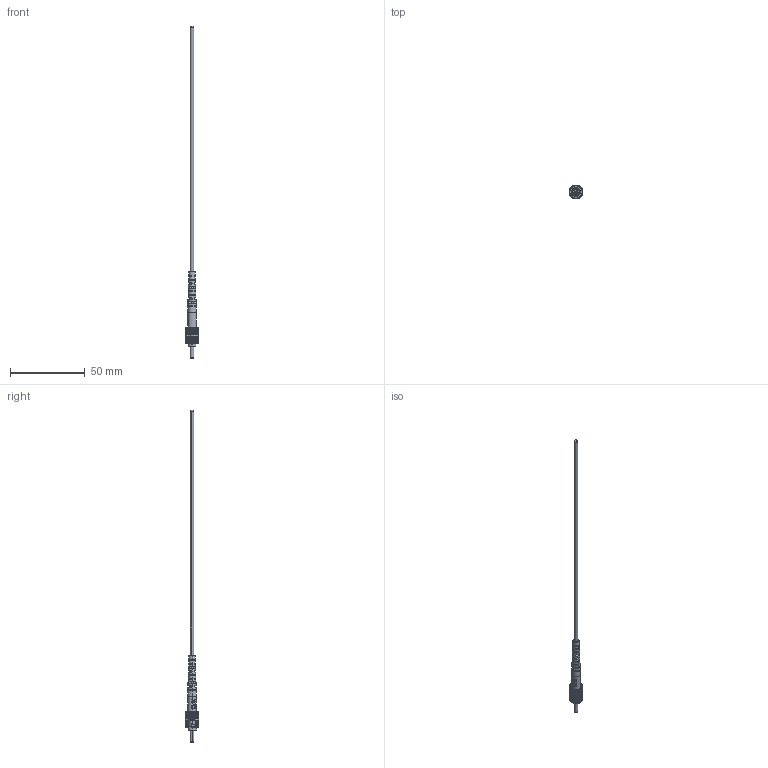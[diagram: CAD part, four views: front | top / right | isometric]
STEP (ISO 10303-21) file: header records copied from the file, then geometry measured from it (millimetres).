
FILE_DESCRIPTION (( 'STEP AP214' ), '1' );
FILE_NAME ('PRB-GB2.STEP', '2016-01-01T00:25:45', ( 'Daryl' ), ( 'Microsoft' ), 'SwSTEP 2.0', 'SolidWorks 2014', '' );
FILE_SCHEMA (( 'AUTOMOTIVE_DESIGN' ));
Length unit declared in the file: millimetre
Products named in the file (1): PRB-GB2
Bounding box: 9.02 x 9.02 x 222.15 mm (x, y, z)
Surface area: 3221.7 mm2 (no closed solid volume)
Topology: 0 solids, 6 shells, 565 faces, 1712 edges, 1129 vertices
Faces by surface type: plane 330, cylinder 207, bspline 24, cone 2, sphere 2
Entity records: 26818 total; most frequent: CARTESIAN_POINT 5499, ORIENTED_EDGE 3307, DIRECTION 2960, EDGE_CURVE 1710, VERTEX_POINT 1129, VECTOR 1104, LINE 1104, AXIS2_PLACEMENT_3D 928
